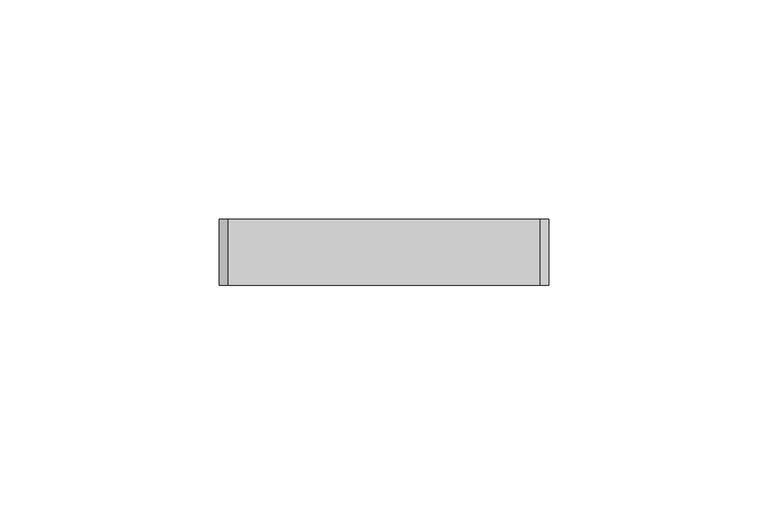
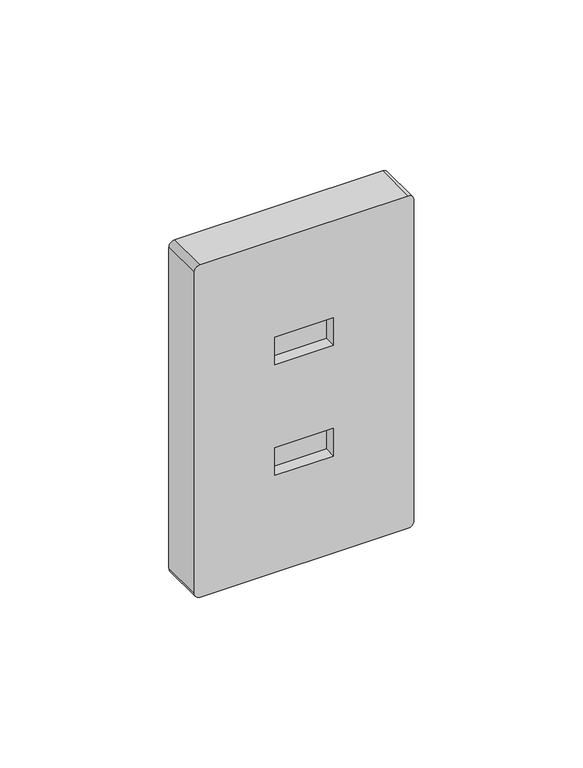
"""IFC4 building model written with IfcOpenShell, lengths in millimetres: proxy geometry, VOICE DATA OUTLET : VOICE DATA OUTLET - DOUBLE RJ45."""

from ifc_helpers import new_model, si_unit, frame, origin, place, context, project, spatial, circle_curve, source, transform, mapped, element, save
from ifc_brep_helpers import plane_surface, cylinder_surface, advanced_brep


def electrical_fixtures_88643506(model_context):
    return source(origin(), model_context, "Body", "AdvancedBrep", [
        advanced_brep(
        [(-35.5, -15.0, 60.0), (-37.5, -15.0, 58.0), (-37.5, -15.0, -58.0), (-35.5, -15.0, -60.0), (35.5, -15.0, -60.0), (37.5, -15.0, -58.0), (37.5, -15.0, 58.0), (35.5, -15.0, 60.0), (-10.0, -15.0, 15.0), (-10.0, -15.0, 25.0), (10.0, -15.0, 25.0), (10.0, -15.0, 15.0), (-10.0, -15.0, -15.0), (10.0, -15.0, -15.0), (10.0, -15.0, -25.0), (-10.0, -15.0, -25.0), (-35.5, 0.0, 60.0), (35.5, 0.0, 60.0), (37.5, 0.0, 58.0), (37.5, 0.0, -58.0), (35.5, 0.0, -60.0), (-35.5, 0.0, -60.0), (-37.5, 0.0, -58.0), (-37.5, 0.0, 58.0), (-10.0, -10.7442982, 25.0), (-10.0, -10.7442982, 15.0), (10.0, -10.7442982, 15.0), (10.0, -10.7442982, 25.0), (10.0, -10.7442982, -15.0), (-10.0, -10.7442982, -15.0), (-10.0, -10.7442982, -25.0), (10.0, -10.7442982, -25.0)],
        [
            (0, 1, circle_curve(frame((-35.5, -15.0, 58.0), z_axis=(0.0, -1.0, 0.0), x_axis=(0.0, 0.0, -1.0)), 2.0)),
            (1, 2),
            (2, 3, circle_curve(frame((-35.5, -15.0, -58.0), z_axis=(0.0, -1.0, 0.0), x_axis=(0.0, 0.0, -1.0)), 2.0)),
            (3, 4),
            (4, 5, circle_curve(frame((35.5, -15.0, -58.0), z_axis=(0.0, -1.0, 0.0), x_axis=(0.0, 0.0, -1.0)), 2.0)),
            (5, 6),
            (6, 7, circle_curve(frame((35.5, -15.0, 58.0), z_axis=(0.0, -1.0, 0.0), x_axis=(0.0, 0.0, -1.0)), 2.0)),
            (7, 0),
            (8, 9),
            (9, 10),
            (10, 11),
            (11, 8),
            (12, 13),
            (13, 14),
            (14, 15),
            (15, 12),
            (16, 17),
            (17, 18, circle_curve(frame((35.5, 0.0, 58.0), z_axis=(0.0, 1.0, 0.0), x_axis=(0.0, 0.0, -1.0)), 2.0)),
            (18, 19),
            (19, 20, circle_curve(frame((35.5, 0.0, -58.0), z_axis=(0.0, 1.0, 0.0), x_axis=(0.0, 0.0, -1.0)), 2.0)),
            (20, 21),
            (21, 22, circle_curve(frame((-35.5, 0.0, -58.0), z_axis=(0.0, 1.0, 0.0), x_axis=(0.0, 0.0, -1.0)), 2.0)),
            (22, 23),
            (23, 16, circle_curve(frame((-35.5, 0.0, 58.0), z_axis=(0.0, 1.0, 0.0), x_axis=(0.0, 0.0, -1.0)), 2.0)),
            (1, 23),
            (22, 2),
            (3, 21),
            (20, 4),
            (5, 19),
            (18, 6),
            (7, 17),
            (16, 0),
            (24, 25),
            (25, 26),
            (26, 27),
            (27, 24),
            (28, 29),
            (29, 30),
            (30, 31),
            (31, 28),
            (24, 9),
            (8, 25),
            (11, 26),
            (10, 27),
            (28, 13),
            (12, 29),
            (15, 30),
            (14, 31),
        ],
        [
            plane_surface(frame((52.5, -15.0, 60.0), z_axis=(0.0, -1.0, 0.0), x_axis=(-1.0, 0.0, 0.0))),
            plane_surface(frame((52.5, 0.0, 60.0), z_axis=(0.0, 1.0, 0.0), x_axis=(1.0, 0.0, 0.0))),
            plane_surface(frame((-37.5, 0.0, -58.0), z_axis=(-1.0, 0.0, 0.0), x_axis=(0.0, -1.0, 0.0))),
            plane_surface(frame((35.5, 0.0, -60.0), z_axis=(0.0, 0.0, -1.0), x_axis=(0.0, -1.0, 0.0))),
            plane_surface(frame((37.5, 0.0, 58.0), z_axis=(1.0, 0.0, 0.0), x_axis=(0.0, -1.0, 0.0))),
            plane_surface(frame((-35.5, 0.0, 60.0), z_axis=(0.0, 0.0, 1.0), x_axis=(0.0, -1.0, 0.0))),
            cylinder_surface(frame((-35.5, -15.0, 58.0), z_axis=(0.0, 1.0, 0.0), x_axis=(0.0, 0.0, -1.0)), 2.0),
            cylinder_surface(frame((-35.5, -15.0, -58.0), z_axis=(0.0, 1.0, 0.0), x_axis=(0.0, 0.0, -1.0)), 2.0),
            cylinder_surface(frame((35.5, -15.0, -58.0), z_axis=(0.0, 1.0, 0.0), x_axis=(0.0, 0.0, -1.0)), 2.0),
            cylinder_surface(frame((35.5, -15.0, 58.0), z_axis=(0.0, 1.0, 0.0), x_axis=(0.0, 0.0, -1.0)), 2.0),
            plane_surface(frame((-10.0, -10.7442982, 25.0), z_axis=(0.0, -1.0, 0.0), x_axis=(0.0, 0.0, 1.0))),
            plane_surface(frame((-10.0, -15.0, 25.0), z_axis=(1.0, 0.0, 0.0), x_axis=(0.0, 1.0, 0.0))),
            plane_surface(frame((-10.0, -15.0, 15.0), z_axis=(0.0, 0.0, 1.0), x_axis=(0.0, 1.0, 0.0))),
            plane_surface(frame((10.0, -15.0, 15.0), z_axis=(-1.0, 0.0, 0.0), x_axis=(0.0, 1.0, 0.0))),
            plane_surface(frame((10.0, -15.0, 25.0), z_axis=(0.0, 0.0, -1.0), x_axis=(0.0, 1.0, 0.0))),
            plane_surface(frame((10.0, -15.0, -15.0), z_axis=(0.0, 0.0, -1.0), x_axis=(0.0, 1.0, 0.0))),
            plane_surface(frame((-10.0, -15.0, -15.0), z_axis=(1.0, 0.0, 0.0), x_axis=(0.0, 1.0, 0.0))),
            plane_surface(frame((-10.0, -15.0, -25.0), z_axis=(0.0, 0.0, 1.0), x_axis=(0.0, 1.0, 0.0))),
            plane_surface(frame((10.0, -15.0, -25.0), z_axis=(-1.0, 0.0, 0.0), x_axis=(0.0, 1.0, 0.0))),
        ],
        [
            (0, [[1, 2, 3, 4, 5, 6, 7, 8], [9, 10, 11, 12], [13, 14, 15, 16]]),
            (1, [[17, 18, 19, 20, 21, 22, 23, 24]]),
            (2, [[-2, 25, -23, 26]]),
            (3, [[-4, 27, -21, 28]]),
            (4, [[-6, 29, -19, 30]]),
            (5, [[-8, 31, -17, 32]]),
            (6, [[-1, -32, -24, -25]]),
            (7, [[-3, -26, -22, -27]]),
            (8, [[-5, -28, -20, -29]]),
            (9, [[-7, -30, -18, -31]]),
            (10, [[33, 34, 35, 36]]),
            (10, [[37, 38, 39, 40]]),
            (11, [[-33, 41, -9, 42]]),
            (12, [[-34, -42, -12, 43]]),
            (13, [[-35, -43, -11, 44]]),
            (14, [[-36, -44, -10, -41]]),
            (15, [[-37, 45, -13, 46]]),
            (16, [[-38, -46, -16, 47]]),
            (17, [[-39, -47, -15, 48]]),
            (18, [[-40, -48, -14, -45]]),
        ],
    ),
    ])


if __name__ == "__main__":
    model = new_model("IFC4")
    model_context = context("Model", 3, world=origin())
    ifc_project = project(units=[si_unit("LENGTHUNIT", "METRE", prefix="MILLI")], contexts=[model_context])
    site = spatial("IfcSite", under=ifc_project)
    building = spatial("IfcBuilding", under=site)
    placement = place(None, origin())
    electrical_fixtures_shape = electrical_fixtures_88643506(model_context)
    element("IfcBuildingElementProxy", 1, Name="VOICE DATA OUTLET : VOICE DATA OUTLET - DOUBLE RJ45", ObjectType="VOICE DATA OUTLET : VOICE DATA OUTLET - DOUBLE RJ45", at=placement, inside=building, context=model_context, shape_type="MappedRepresentation", body=[
        mapped(electrical_fixtures_shape, transform((0.0, 0.0, 0.0), x_axis=(1.0, 0.0, 0.0), y_axis=(0.0, 1.0, 0.0), z_axis=(0.0, 0.0, 1.0))),
    ])
    save(model, "model.ifc")
